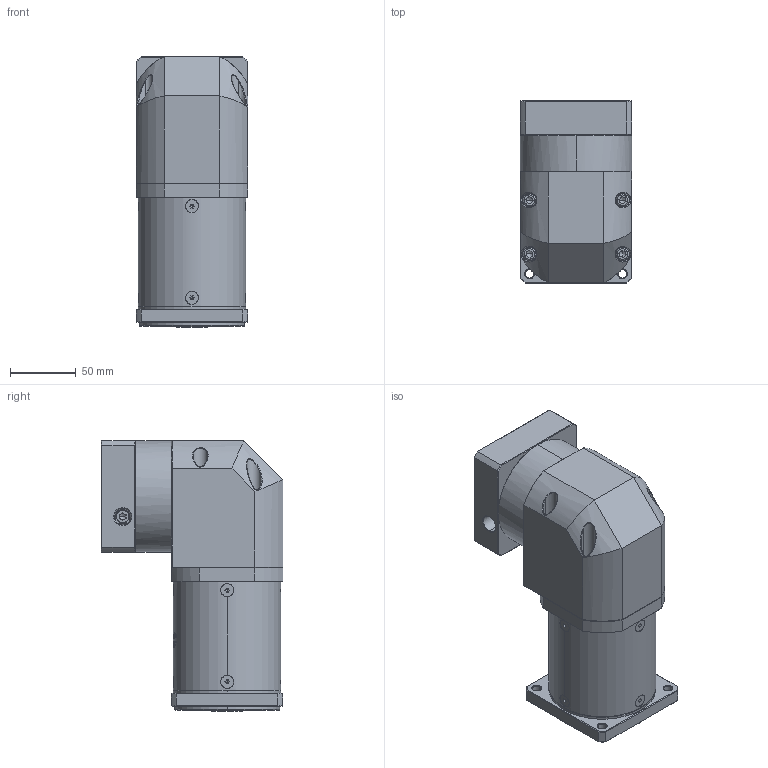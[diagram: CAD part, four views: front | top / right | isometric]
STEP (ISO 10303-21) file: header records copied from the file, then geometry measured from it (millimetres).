
FILE_DESCRIPTION (( 'STEP AP214' ), '1' );
FILE_NAME ('ZFR080-K15-L3-P2-19-80-100-M6.step', '2023-08-25T03:58:35', ( '' ), ( '' ), 'SwSTEP 2.0', 'SolidWorks 2016', '' );
FILE_SCHEMA (( 'AUTOMOTIVE_DESIGN' ));
Length unit declared in the file: millimetre
Products named in the file (1): ZFR080-K15-L3-P2-19-80-100-M6
Bounding box: 85 x 138.6 x 206.5 mm (x, y, z)
Volume: 1446433.5 mm3; surface area: 144553.2 mm2
Topology: 13 solids, 13 shells, 2409 faces, 6214 edges, 3912 vertices
Faces by surface type: plane 1187, cylinder 417, bspline 414, cone 359, torus 32
Entity records: 124934 total; most frequent: CARTESIAN_POINT 44900, ORIENTED_EDGE 12340, DIRECTION 9404, EDGE_CURVE 6170, VERTEX_POINT 3912, VECTOR 3340, LINE 3340, AXIS2_PLACEMENT_3D 3032
